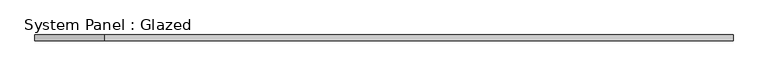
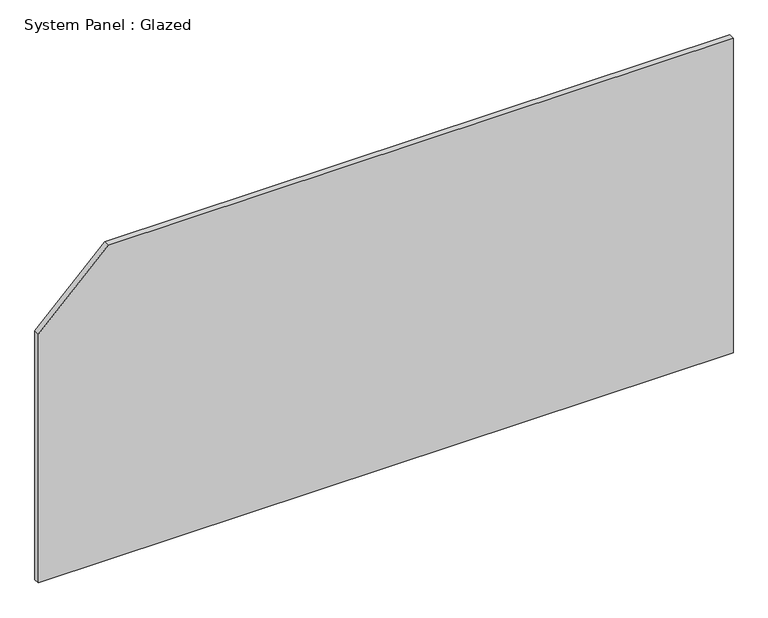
"""IFC4 building model written with IfcOpenShell, lengths in millimetres: plate geometry, System Panel : Glazed."""

from ifc_helpers import new_model, si_unit, frame, origin, place, context, project, spatial, polyline, outline, extrude, source, transform, mapped, element, save


def system_panel_glazed_a99ba272(model_context):
    return source(origin(), model_context, "Body", "SweptSolid", [
        extrude(outline(polyline([(0.0, -1492.2499999), (0.0, 1492.2499999), (1428.75, 1492.2499999), (1428.75, -1192.8974389), (1129.397439, -1492.2499999), (0.0, -1492.2499999)])), frame((0.0, 19.05, 0.0), z_axis=(0.0, 1.0, 0.0), x_axis=(0.0, 0.0, 1.0)), (0.0, 0.0, 1.0), 25.4),
    ])


if __name__ == "__main__":
    model = new_model("IFC4")
    model_context = context("Model", 3, world=origin())
    ifc_project = project(units=[si_unit("LENGTHUNIT", "METRE", prefix="MILLI")], contexts=[model_context])
    site = spatial("IfcSite", under=ifc_project)
    building = spatial("IfcBuilding", under=site)
    placement = place(None, origin())
    system_panel_glazed_shape = system_panel_glazed_a99ba272(model_context)
    element("IfcPlate", 1, ObjectType="System Panel : Glazed", at=placement, inside=building, context=model_context, shape_type="MappedRepresentation", body=[
        mapped(system_panel_glazed_shape, transform((0.0, 0.0, 0.0), x_axis=(1.0, 0.0, 0.0), y_axis=(0.0, 1.0, 0.0), z_axis=(0.0, 0.0, 1.0))),
    ])
    save(model, "model.ifc")
